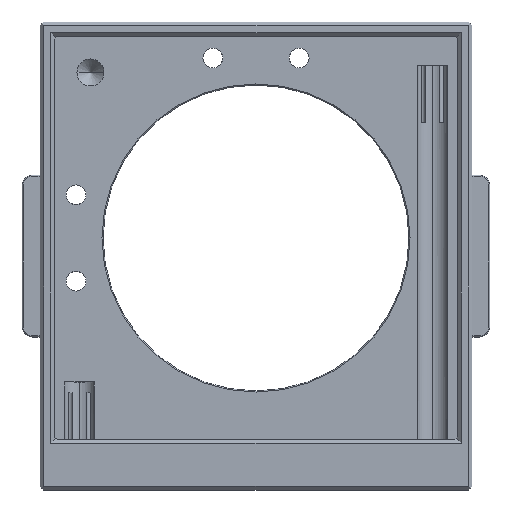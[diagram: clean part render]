
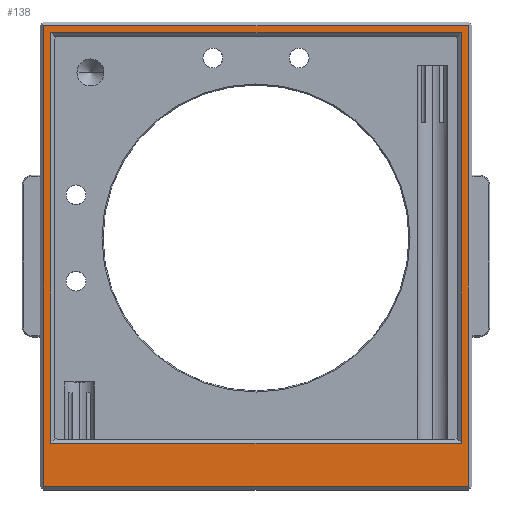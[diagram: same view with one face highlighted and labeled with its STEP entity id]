
A CAD part, top view. The second image highlights one B-rep face of the part: STEP entity #138.
In plain terms, the highlighted planar face has unit normal (0, 0, 1).
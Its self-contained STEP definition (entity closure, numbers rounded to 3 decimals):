
#68 = EDGE_LOOP ( 'NONE', ( #5264, #2203, #1756, #4514 ) ) ;
#125 = ORIENTED_EDGE ( 'NONE', *, *, #2612, .T. ) ;
#138 = ADVANCED_FACE ( 'NONE', ( #5353, #1450 ), #4921, .T. ) ;
#165 = CARTESIAN_POINT ( 'NONE',  ( 57., 62., 15. ) ) ;
#219 = VECTOR ( 'NONE', #633, 1000. ) ;
#289 = LINE ( 'NONE', #778, #910 ) ;
#294 = CARTESIAN_POINT ( 'NONE',  ( 59., 65., 15. ) ) ;
#633 = DIRECTION ( 'NONE',  ( 1., 0., 0. ) ) ;
#772 = VERTEX_POINT ( 'NONE', #165 ) ;
#778 = CARTESIAN_POINT ( 'NONE',  ( -59., -65., 15. ) ) ;
#830 = LINE ( 'NONE', #5200, #3582 ) ;
#910 = VECTOR ( 'NONE', #2978, 1000. ) ;
#980 = CARTESIAN_POINT ( 'NONE',  ( 60., -64., 15. ) ) ;
#1097 = EDGE_CURVE ( 'NONE', #2806, #5201, #289, .T. ) ;
#1163 = DIRECTION ( 'NONE',  ( 0., -1., 0. ) ) ;
#1203 = DIRECTION ( 'NONE',  ( 0., 1., 0. ) ) ;
#1212 = CARTESIAN_POINT ( 'NONE',  ( -59., 64., 15. ) ) ;
#1223 = ORIENTED_EDGE ( 'NONE', *, *, #5137, .T. ) ;
#1266 = CARTESIAN_POINT ( 'NONE',  ( -57., 62., 15. ) ) ;
#1450 = FACE_OUTER_BOUND ( 'NONE', #68, .T. ) ;
#1508 = LINE ( 'NONE', #2831, #4600 ) ;
#1526 = AXIS2_PLACEMENT_3D ( 'NONE', #2347, #2832, #4079 ) ;
#1756 = ORIENTED_EDGE ( 'NONE', *, *, #3814, .T. ) ;
#1765 = CARTESIAN_POINT ( 'NONE',  ( 59., -64., 15. ) ) ;
#2057 = VECTOR ( 'NONE', #2739, 1000. ) ;
#2137 = DIRECTION ( 'NONE',  ( -1., 0., 0. ) ) ;
#2168 = EDGE_CURVE ( 'NONE', #2356, #3099, #1508, .T. ) ;
#2203 = ORIENTED_EDGE ( 'NONE', *, *, #3275, .T. ) ;
#2261 = CARTESIAN_POINT ( 'NONE',  ( -59., -64., 15. ) ) ;
#2264 = LINE ( 'NONE', #980, #219 ) ;
#2347 = CARTESIAN_POINT ( 'NONE',  ( 0., 0., 15. ) ) ;
#2356 = VERTEX_POINT ( 'NONE', #3709 ) ;
#2489 = VERTEX_POINT ( 'NONE', #5144 ) ;
#2612 = EDGE_CURVE ( 'NONE', #3099, #2931, #4072, .T. ) ;
#2631 = EDGE_LOOP ( 'NONE', ( #125, #1223, #3562, #4312 ) ) ;
#2739 = DIRECTION ( 'NONE',  ( 0., 1., 0. ) ) ;
#2778 = LINE ( 'NONE', #5357, #3854 ) ;
#2779 = EDGE_CURVE ( 'NONE', #772, #2356, #4551, .T. ) ;
#2806 = VERTEX_POINT ( 'NONE', #1212 ) ;
#2831 = CARTESIAN_POINT ( 'NONE',  ( -56., -52., 15. ) ) ;
#2832 = DIRECTION ( 'NONE',  ( 0., 0., 1. ) ) ;
#2931 = VERTEX_POINT ( 'NONE', #1266 ) ;
#2978 = DIRECTION ( 'NONE',  ( 0., -1., 0. ) ) ;
#3071 = VECTOR ( 'NONE', #1163, 1000. ) ;
#3099 = VERTEX_POINT ( 'NONE', #5478 ) ;
#3259 = CARTESIAN_POINT ( 'NONE',  ( -57., 61., 15. ) ) ;
#3275 = EDGE_CURVE ( 'NONE', #5201, #5445, #2264, .T. ) ;
#3486 = VECTOR ( 'NONE', #1203, 1000. ) ;
#3562 = ORIENTED_EDGE ( 'NONE', *, *, #2779, .T. ) ;
#3582 = VECTOR ( 'NONE', #2137, 1000. ) ;
#3709 = CARTESIAN_POINT ( 'NONE',  ( 57., -52., 15. ) ) ;
#3746 = LINE ( 'NONE', #294, #3486 ) ;
#3814 = EDGE_CURVE ( 'NONE', #5445, #2489, #3746, .T. ) ;
#3854 = VECTOR ( 'NONE', #3965, 1000. ) ;
#3965 = DIRECTION ( 'NONE',  ( 1., 0., 0. ) ) ;
#4072 = LINE ( 'NONE', #3259, #2057 ) ;
#4079 = DIRECTION ( 'NONE',  ( 1., 0., 0. ) ) ;
#4185 = CARTESIAN_POINT ( 'NONE',  ( 57., -51., 15. ) ) ;
#4312 = ORIENTED_EDGE ( 'NONE', *, *, #2168, .T. ) ;
#4462 = EDGE_CURVE ( 'NONE', #2489, #2806, #830, .T. ) ;
#4514 = ORIENTED_EDGE ( 'NONE', *, *, #4462, .T. ) ;
#4532 = DIRECTION ( 'NONE',  ( -1., 0., 0. ) ) ;
#4551 = LINE ( 'NONE', #4185, #3071 ) ;
#4600 = VECTOR ( 'NONE', #4532, 1000. ) ;
#4921 = PLANE ( 'NONE',  #1526 ) ;
#5137 = EDGE_CURVE ( 'NONE', #2931, #772, #2778, .T. ) ;
#5144 = CARTESIAN_POINT ( 'NONE',  ( 59., 64., 15. ) ) ;
#5200 = CARTESIAN_POINT ( 'NONE',  ( -60., 64., 15. ) ) ;
#5201 = VERTEX_POINT ( 'NONE', #2261 ) ;
#5264 = ORIENTED_EDGE ( 'NONE', *, *, #1097, .T. ) ;
#5353 = FACE_BOUND ( 'NONE', #2631, .T. ) ;
#5357 = CARTESIAN_POINT ( 'NONE',  ( 56., 62., 15. ) ) ;
#5445 = VERTEX_POINT ( 'NONE', #1765 ) ;
#5478 = CARTESIAN_POINT ( 'NONE',  ( -57., -52., 15. ) ) ;
